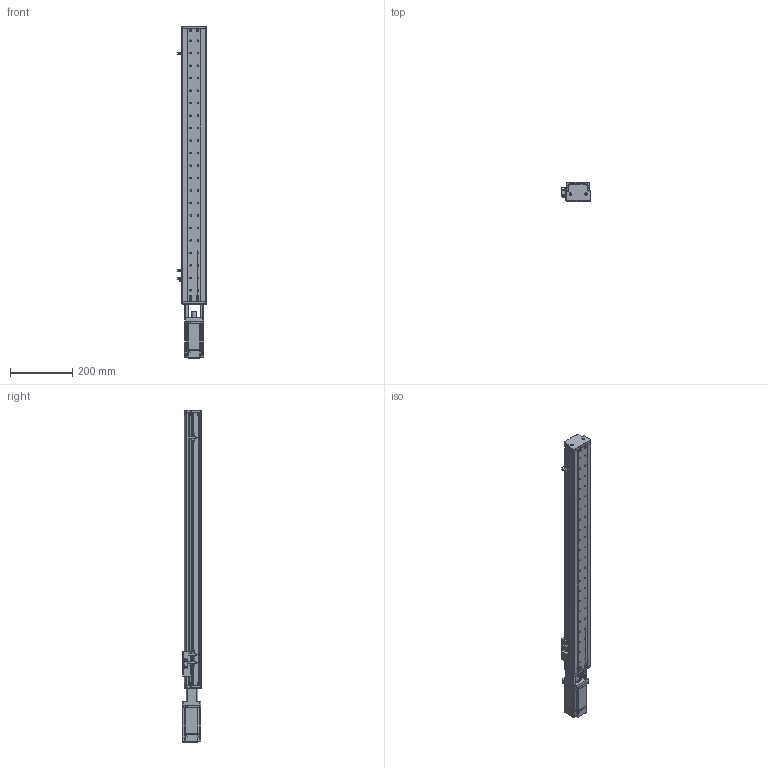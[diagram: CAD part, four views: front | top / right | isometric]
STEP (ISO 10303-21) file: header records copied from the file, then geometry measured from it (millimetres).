
FILE_DESCRIPTION (( 'STEP AP214' ), '1' );
FILE_NAME ('KSD75S-S720-MT-CM.STEP', '2019-10-18T07:34:38', ( '微软用户' ), ( '微软中国' ), 'SwSTEP 2.0', 'SolidWorks 2014', '' );
FILE_SCHEMA (( 'AUTOMOTIVE_DESIGN' ));
Length unit declared in the file: millimetre
Products named in the file (12): U倰嫖萇EEㄜSX672; 綴傷啣 ; 100遵鎮湛假蚾啣1 ; ヶ傷啣; 75裔啣-720俴最; 75遵耀郪耜啣-720俴最; 75遵賑雄釱; MGW15H賑寢720; 720俴最; KSD75S-S720-MT-CM; MHMD042G1CA_2_03; 覜茼え100遵圉猾敕
Assembly tree (14 placements, depth 3):
  KSD75S-S720-MT-CM
    MGW15H賑寢720
      720俴最
    75遵賑雄釱
    75遵耀郪耜啣-720俴最  x2
    75裔啣-720俴最
    ヶ傷啣
    100遵鎮湛假蚾啣1 
    綴傷啣 
    U倰嫖萇EEㄜSX672  x3
    覜茼え100遵圉猾敕
    MHMD042G1CA_2_03
Bounding box: 91.7 x 63 x 1063.5 mm (x, y, z)
Volume: 1064283 mm3; surface area: 668749.1 mm2
Topology: 12 solids, 13 shells, 1486 faces, 4173 edges, 2723 vertices
Faces by surface type: cylinder 724, plane 615, cone 129, bspline 18
Entity records: 47668 total; most frequent: CARTESIAN_POINT 8997, DIRECTION 7153, ORIENTED_EDGE 6626, EDGE_CURVE 3384, AXIS2_PLACEMENT_3D 2658, VERTEX_POINT 2241, LINE 1837, VECTOR 1837
